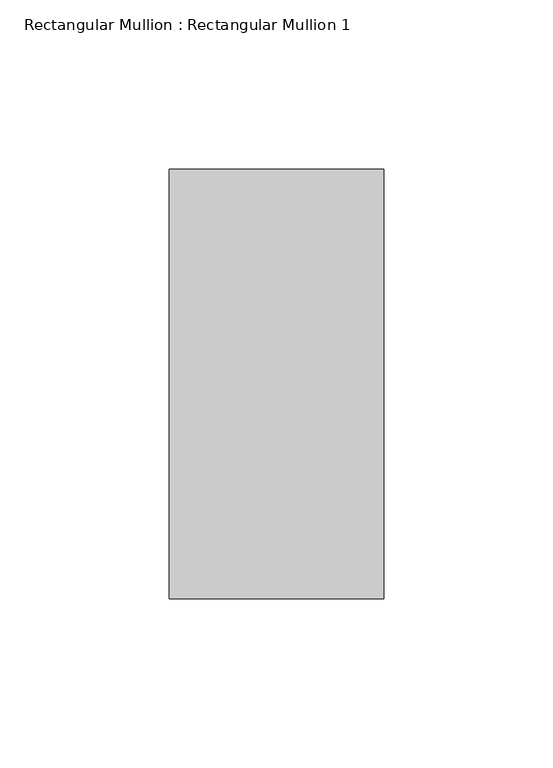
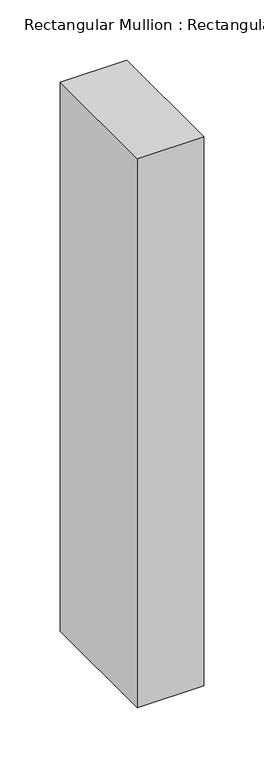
"""IFC4 building model written with IfcOpenShell, lengths in millimetres: member geometry, Rectangular Mullion : Rectangular Mullion 1."""

import ifcopenshell
import ifcopenshell.guid

model = None  # the IFC model being written
_history = None  # IfcOwnerHistory: only IFC2X3 demands one
_inside = {}  # id of a spatial element -> (the spatial element, [elements in it])
_under = {}  # id of a project, library or spatial element -> (it, [spatial elements below it])
_declared = {}  # id of a project -> (the project, [libraries it declares])
_typed = {}  # id of a type object -> (the type object, [elements of that type])
_made_of = {}  # id of a material, layer set ... -> (it, [elements and type objects made of it])


def new_model(schema):
    """Start an empty IFC model of exactly this schema.

    Asked for "IFC4X3", IfcOpenShell would pick the latest addendum, in which some entities
    have other attributes; the version numbers below select the first issue.
    IFC2X3 requires an IfcOwnerHistory on every rooted entity: one is made here for all.
    """
    global model, _history
    if schema == "IFC4X3":
        model = ifcopenshell.file(schema_version=(4, 3, 0, 0))
    else:
        model = ifcopenshell.file(schema=schema)
    _inside.clear()
    _under.clear()
    _declared.clear()
    _typed.clear()
    _made_of.clear()
    _history = None
    if model.schema == "IFC2X3":
        org = make("IfcOrganization", Name="unknown")
        user = make(
            "IfcPersonAndOrganization",
            ThePerson=make("IfcPerson", FamilyName="unknown"),
            TheOrganization=org,
        )
        app = make(
            "IfcApplication",
            ApplicationDeveloper=org,
            Version="unknown",
            ApplicationFullName="unknown",
            ApplicationIdentifier="unknown",
        )
        _history = make(
            "IfcOwnerHistory",
            OwningUser=user,
            OwningApplication=app,
            ChangeAction="ADDED",
            CreationDate=0,
        )
    return model


def make(cls, **values):
    """One entity of the class cls with the attributes given. An attribute that is None is left unset."""
    return model.create_entity(
        cls, **{name: value for name, value in values.items() if value is not None}
    )


def rooted(cls, **values):
    """An entity with a GlobalId (a new one), such as an element, a storey or a relation."""
    return make(cls, GlobalId=ifcopenshell.guid.new(), OwnerHistory=_history, **values)


def si_unit(unit_type, name, prefix=None):
    """IfcSIUnit, for example si_unit("LENGTHUNIT", "METRE", prefix="MILLI")."""
    return make("IfcSIUnit", UnitType=unit_type, Prefix=prefix, Name=name)


def assignment(units):
    """IfcUnitAssignment: the units of a project."""
    return None if units is None else make("IfcUnitAssignment", Units=units)


def point(xyz):
    """IfcCartesianPoint."""
    return None if xyz is None else make("IfcCartesianPoint", Coordinates=xyz)


def direction(xyz):
    """IfcDirection."""
    return None if xyz is None else make("IfcDirection", DirectionRatios=xyz)


def frame(location, z_axis=None, x_axis=None):
    """IfcAxis2Placement3D, a coordinate frame: its origin and axes. An axis left out is left unset."""
    return make(
        "IfcAxis2Placement3D",
        Location=point(location),
        Axis=direction(z_axis),
        RefDirection=direction(x_axis),
    )


def origin():
    """The frame at (0, 0, 0) with its axes left unset."""
    return frame((0.0, 0.0, 0.0))


def place(relative_to, where):
    """IfcLocalPlacement: puts the frame where relative to a parent placement (None: the world)."""
    return make(
        "IfcLocalPlacement", PlacementRelTo=relative_to, RelativePlacement=where
    )


def context(
    kind, dimensions, precision=None, world=None, true_north=None, identifier=None
):
    """IfcGeometricRepresentationContext, for example the 3D "Model" context."""
    return make(
        "IfcGeometricRepresentationContext",
        ContextIdentifier=identifier,
        ContextType=kind,
        CoordinateSpaceDimension=dimensions,
        Precision=precision,
        WorldCoordinateSystem=world,
        TrueNorth=true_north,
    )


def project(units=None, contexts=None):
    """IfcProject with its units and contexts."""
    return rooted(
        "IfcProject",
        Name="project",
        RepresentationContexts=contexts,
        UnitsInContext=assignment(units),
    )


def spatial(cls, under=None, at=None, **own):
    """A site, building, storey or space (cls), placed at a placement, below another one or the project."""
    s = rooted(cls, ObjectPlacement=at, **own)
    if under is not None:
        _under.setdefault(under.id(), (under, []))[1].append(s)
    return s


def polyline(points):
    """IfcPolyline through the points."""
    return make("IfcPolyline", Points=[point(p) for p in points])


def outline(outer, holes=None, kind="AREA"):
    """IfcArbitraryClosedProfileDef: a profile drawn as a closed curve; with holes, ...WithVoids."""
    if holes is None:
        return make("IfcArbitraryClosedProfileDef", ProfileType=kind, OuterCurve=outer)
    return make(
        "IfcArbitraryProfileDefWithVoids",
        ProfileType=kind,
        OuterCurve=outer,
        InnerCurves=holes,
    )


def extrude(swept, where, along, depth):
    """IfcExtrudedAreaSolid: the profile swept, set in the frame where, extruded along a direction by depth."""
    return make(
        "IfcExtrudedAreaSolid",
        SweptArea=swept,
        Position=where,
        ExtrudedDirection=direction(along),
        Depth=depth,
    )


def shape(context_of_items, identifier, shape_type, items):
    """IfcShapeRepresentation: the items that make up one representation, for example the "Body"."""
    return make(
        "IfcShapeRepresentation",
        ContextOfItems=context_of_items,
        RepresentationIdentifier=identifier,
        RepresentationType=shape_type,
        Items=items,
    )


def source(mapping_origin, context_of_items, identifier, shape_type, items):
    """IfcRepresentationMap: a shape defined once, which mapped items show again and again."""
    return make(
        "IfcRepresentationMap",
        MappingOrigin=mapping_origin,
        MappedRepresentation=shape(context_of_items, identifier, shape_type, items),
    )


def transform(
    local_origin,
    x_axis=None,
    y_axis=None,
    z_axis=None,
    scale=None,
    scale2=None,
    scale3=None,
    uniform=True,
):
    """IfcCartesianTransformationOperator3D, or its non-uniform kind. x_axis, y_axis, z_axis: its Axis1, 2, 3."""
    if uniform:
        return make(
            "IfcCartesianTransformationOperator3D",
            Axis1=direction(x_axis),
            Axis2=direction(y_axis),
            LocalOrigin=point(local_origin),
            Scale=scale,
            Axis3=direction(z_axis),
        )
    return make(
        "IfcCartesianTransformationOperator3DnonUniform",
        Axis1=direction(x_axis),
        Axis2=direction(y_axis),
        LocalOrigin=point(local_origin),
        Scale=scale,
        Axis3=direction(z_axis),
        Scale2=scale2,
        Scale3=scale3,
    )


def mapped(mapping_source, mapping_target):
    """IfcMappedItem: shows the shape of a source again, moved by a transform."""
    return make(
        "IfcMappedItem", MappingSource=mapping_source, MappingTarget=mapping_target
    )


def made_of(thing, what):
    """Note that an element or type object is made of a material, layer set ...; save() writes the relation."""
    if what is not None:
        _made_of.setdefault(what.id(), (what, []))[1].append(thing)
    return thing


def element(
    cls,
    number,
    at=None,
    inside=None,
    cuts=None,
    type_object=None,
    material=None,
    context=None,
    identifier="Body",
    shape_type=None,
    held_by="IfcProductDefinitionShape",
    body=None,
    shapes=None,
    **own,
):
    """One element of the class cls, such as IfcWall. Its Tag is "e" and its number.

    at: its placement. inside: the storey or other place that contains it. cuts: it is an
    opening in that element (IfcRelVoidsElement). A single representation is given by context,
    identifier, shape_type and body (its items); several are given by shapes. held_by: the class
    of the entity that holds the representations. save() writes the other relations.
    """
    e = rooted(cls, Tag="e%d" % number, ObjectPlacement=at, **own)
    if body is not None:
        shapes = [shape(context, identifier, shape_type, body)]
    if shapes is not None:
        e.Representation = make(held_by, Representations=shapes)
    if inside is not None:
        _inside.setdefault(inside.id(), (inside, []))[1].append(e)
    if cuts is not None:
        rooted(
            "IfcRelVoidsElement", RelatingBuildingElement=cuts, RelatedOpeningElement=e
        )
    if type_object is not None:
        _typed.setdefault(type_object.id(), (type_object, []))[1].append(e)
    return made_of(e, material)


def aggregate(whole, parts):
    """IfcRelAggregates: a whole, such as a stair, and the parts it consists of."""
    return rooted("IfcRelAggregates", RelatingObject=whole, RelatedObjects=parts)


def save(model, path):
    """Write the relations noted so far, then the file.

    IfcRelAggregates (storeys below a building ...), IfcRelContainedInSpatialStructure (elements
    in a storey), IfcRelDefinesByType, IfcRelAssociatesMaterial and IfcRelDeclares: one each for
    every whole, place, type object, material and project.
    """
    for whole, parts in _under.values():
        aggregate(whole, parts)
    for where, things in _inside.values():
        rooted(
            "IfcRelContainedInSpatialStructure",
            RelatedElements=things,
            RelatingStructure=where,
        )
    for kind, things in _typed.values():
        rooted("IfcRelDefinesByType", RelatedObjects=things, RelatingType=kind)
    for what, things in _made_of.values():
        rooted("IfcRelAssociatesMaterial", RelatedObjects=things, RelatingMaterial=what)
    for by, libraries in _declared.values():
        rooted("IfcRelDeclares", RelatingContext=by, RelatedDefinitions=libraries)
    model.write(path)


def rectangular_mullion_rectangular_mullion_1_5f94ee87(model_context):
    return source(origin(), model_context, "Body", "SweptSolid", [
        extrude(outline(polyline([(0.0, 63.5), (0.0, -63.5), (-63.5, -63.5), (-63.5, 63.5), (0.0, 63.5)])), frame((0.0, 0.0, -554.7741536), z_axis=(0.0, 0.0, 1.0), x_axis=(1.0, 0.0, 0.0)), (0.0, 0.0, 1.0), 554.7741536),
    ])


if __name__ == "__main__":
    model = new_model("IFC4")
    model_context = context("Model", 3, world=origin())
    ifc_project = project(units=[si_unit("LENGTHUNIT", "METRE", prefix="MILLI")], contexts=[model_context])
    site = spatial("IfcSite", under=ifc_project)
    building = spatial("IfcBuilding", under=site)
    placement = place(None, origin())
    rectangular_mullion_rectangular_mullion_1_shape = rectangular_mullion_rectangular_mullion_1_5f94ee87(model_context)
    element("IfcMember", 1, ObjectType="Rectangular Mullion : Rectangular Mullion 1", at=placement, inside=building, context=model_context, shape_type="MappedRepresentation", body=[
        mapped(rectangular_mullion_rectangular_mullion_1_shape, transform((0.0, 0.0, 0.0), x_axis=(1.0, 0.0, 0.0), y_axis=(0.0, 1.0, 0.0), z_axis=(0.0, 0.0, 1.0))),
    ])
    save(model, "model.ifc")
